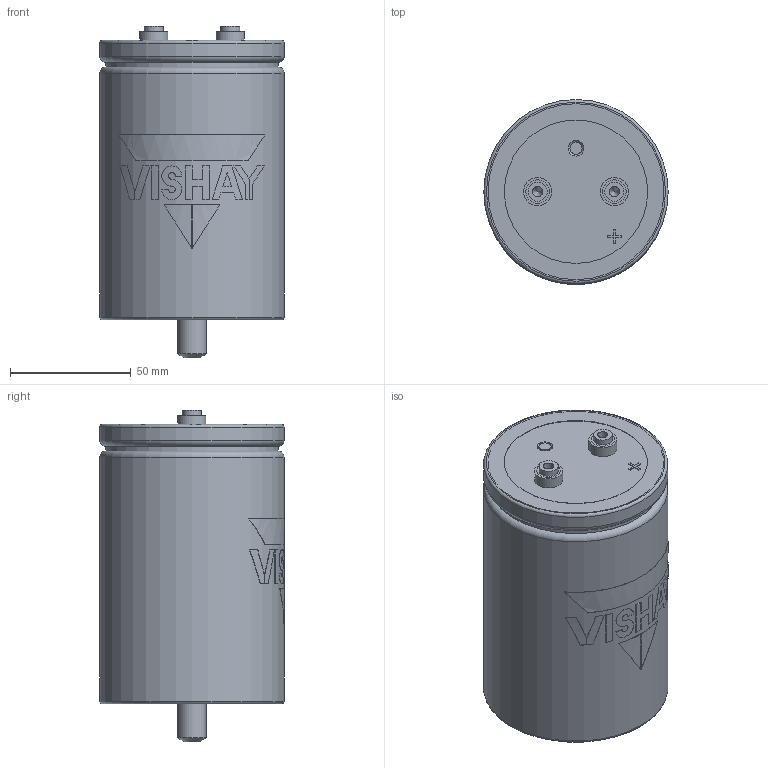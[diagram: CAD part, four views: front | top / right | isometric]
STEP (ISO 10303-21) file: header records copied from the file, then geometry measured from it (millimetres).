
FILE_DESCRIPTION(('FreeCAD Model'),'2;1');
FILE_NAME('C:/Users/tvandesteeg/Documents/Documents/FreeCAD/Stepfiles/ST capacitors/STB_HP_M5_76x114.step','2020-07-02T17:28:21',('Author'),(''), 'Open CASCADE STEP processor 7.3','FreeCAD','Unknown');
FILE_SCHEMA(('AUTOMOTIVE_DESIGN { 1 0 10303 214 1 1 1 1 }'));
Length unit declared in the file: millimetre
Products named in the file (7): VentBody; TerminalBody_(Mirror_#2); TerminalBody; STBBottomBody; Disc; LogoPrint; CanBody
Bounding box: 76.4 x 76.5 x 137.5 mm (x, y, z)
Volume: 527107.9 mm3; surface area: 63365.2 mm2
Topology: 17 solids, 17 shells, 152 faces, 318 edges, 209 vertices
Faces by surface type: plane 94, cylinder 49, torus 5, cone 4
Full cylindrical faces by diameter (mm): 4.2 x2, 5 x2, 7.9 x2, 9.8 x6, 11.7 x2, 11.966 x1, 59.422 x3, 71.4 x1, 72 x2, 76.4 x2
Entity records: 10788 total; most frequent: CARTESIAN_POINT 3378, DIRECTION 1228, ORIENTED_EDGE 632, PCURVE 632, DEFINITIONAL_REPRESENTATION 632, LINE 542, VECTOR 542, EDGE_CURVE 316
